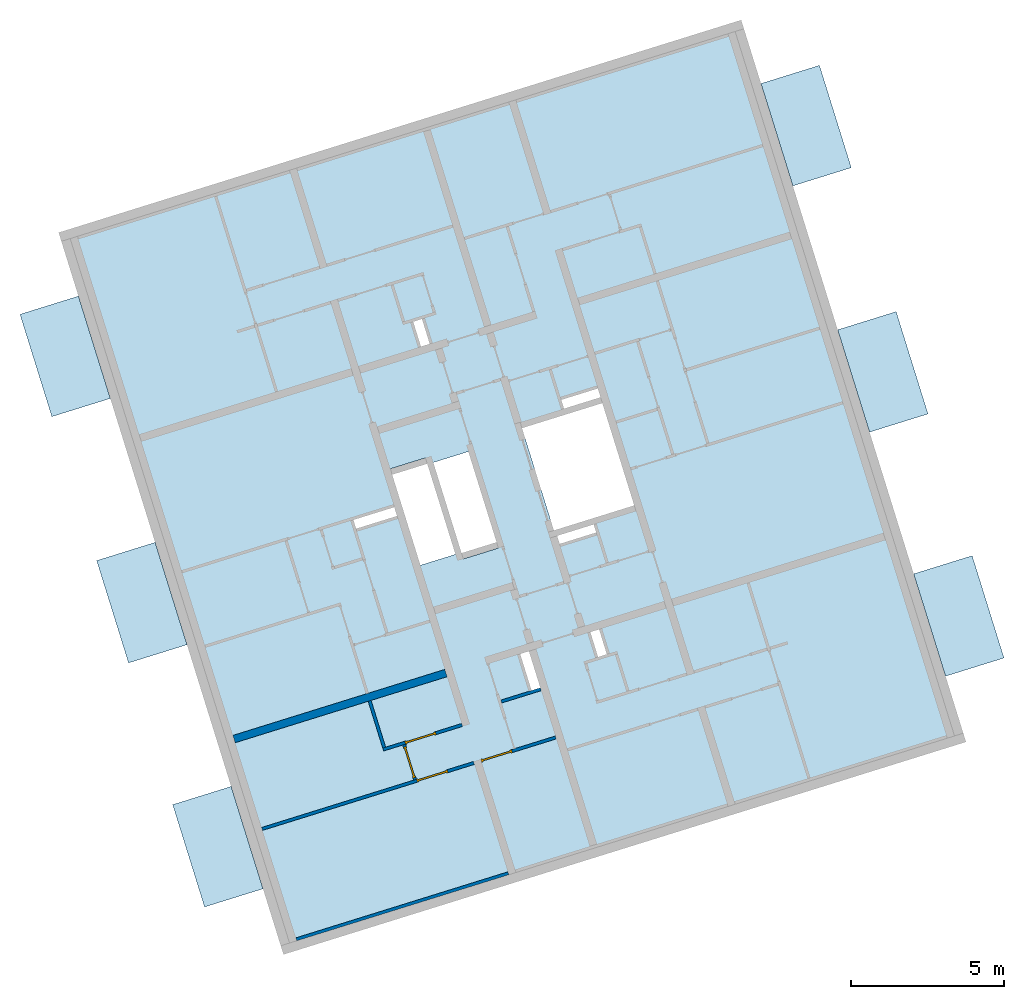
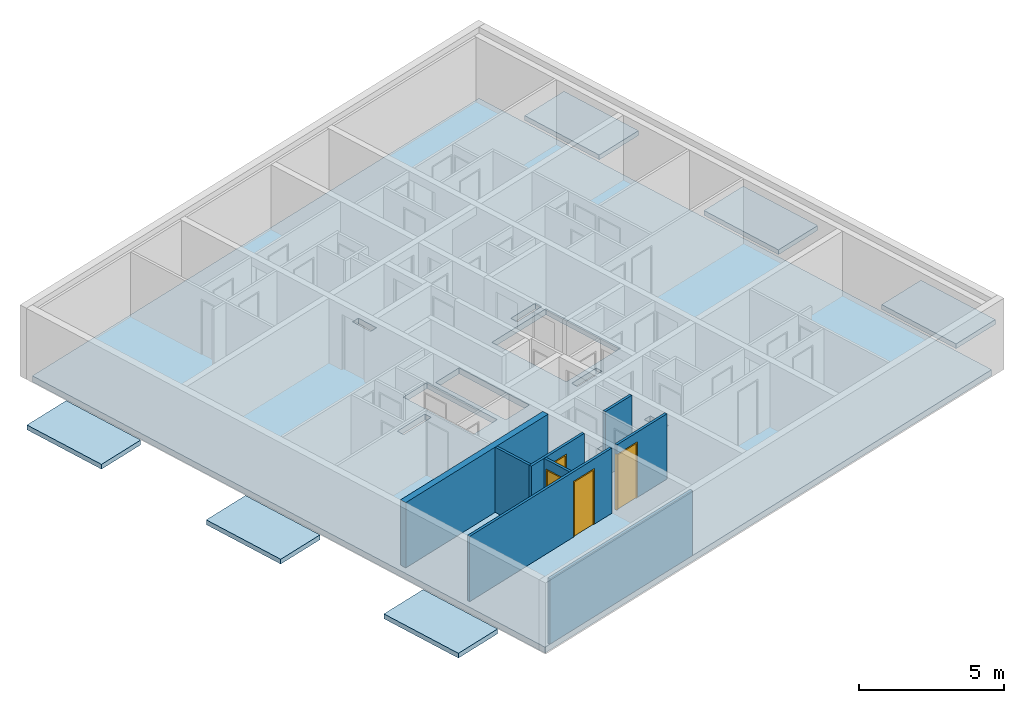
# One storey, part 1 of 9: 8 walls, 7 slabs, 4 doors, 13 openings.
"""IFC4 building model written with IfcOpenShell, lengths in metres."""

from ifc_helpers import new_model, entity, si_unit, converted_unit, direction, frame, origin, place, context, subcontext, project, spatial, indexed_curve, outline, extrude, polygons, source, transform, mapped, material, constituent, constituent_set, type_object, type_shapes, element, fill, save


model = new_model("IFC4")

# Units and contexts
model_context = context("Model", 3, precision=1e-05, world=origin(), true_north=direction((6.12323399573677e-17, 1.0)))
body_context = subcontext(model_context, "Body", "Model", "MODEL_VIEW")
ifc_project = project(units=[si_unit("LENGTHUNIT", "METRE"), si_unit("AREAUNIT", "SQUARE_METRE"), converted_unit("PLANEANGLEUNIT", "DEGREE", entity("IfcPlaneAngleMeasure", 0.0174532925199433), si_unit("PLANEANGLEUNIT", "RADIAN"), dimensions=[0, 0, 0, 0, 0, 0, 0]), si_unit("VOLUMEUNIT", "CUBIC_METRE")], contexts=[model_context])

# Site, building, storey
site_placement = place(None, frame((13.1347999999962, 11.9886000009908, 0.0), z_axis=(0.0, 0.0, 1.0), x_axis=(0.954770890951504, 0.297342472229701, 0.0)))
site = spatial("IfcSite", under=ifc_project, at=site_placement, Name="Schiehaven", CompositionType="ELEMENT")
building_placement = place(site_placement, origin())
building = spatial("IfcBuilding", under=site, at=building_placement, Name="VORM huis", CompositionType="ELEMENT")
storey_placement = place(building_placement, frame((0.0, 0.0, 24.9)))
storey = spatial("IfcBuildingStorey", under=building, at=storey_placement, Name="08 achtste verdieping", CompositionType="ELEMENT", Elevation=24.9)

# Slab, openings
ifc_material_1 = material(Name="beton_gewapend_ihw", Category="Miscellaneous")
slab_type_1 = type_object("IfcSlabType", Name="Floor:28_FL_skelet_vloer 250mm", PredefinedType="FLOOR", material=ifc_material_1)
slab_1_placement = place(storey_placement, origin())
slab_1 = element("IfcSlab", 1, at=slab_1_placement, inside=storey, type_object=slab_type_1, material=ifc_material_1, Name="Constructieve vloer", ObjectType="Vloer", PredefinedType="FLOOR", context=body_context, shape_type="SweptSolid", body=[
    extrude(outline(indexed_curve([(-12.0499999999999, -11.375), (12.05, -11.375), (12.0499999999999, 11.375), (-12.05, 11.375), (-12.0499999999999, -11.375)], self_intersect=False), holes=[indexed_curve([(1.75000000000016, 3.6250000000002), (1.75000000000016, 0.875000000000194), (-1.74999999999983, 0.875000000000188), (-1.74999999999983, 3.6250000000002), (1.75000000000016, 3.6250000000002)], self_intersect=False), indexed_curve([(-1.53999999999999, -2.22499999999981), (-1.53999999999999, -1.02499999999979), (1.76000000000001, -1.02499999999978), (1.76000000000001, -2.2249999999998), (-1.53999999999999, -2.22499999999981)], self_intersect=False), indexed_curve([(1.54000000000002, -3.62499999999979), (-1.75999999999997, -3.62499999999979), (-1.75999999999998, -2.42499999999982), (1.54000000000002, -2.42499999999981), (1.54000000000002, -3.62499999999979)], self_intersect=False), indexed_curve([(5.27499999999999, 1.02499999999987), (5.27499999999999, 1.32499999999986), (6.12499999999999, 1.32499999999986), (6.125, 1.02499999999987), (5.27499999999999, 1.02499999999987)], self_intersect=False), indexed_curve([(-6.12500000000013, -1.18400000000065), (-5.27500000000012, -1.18400000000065), (-5.27500000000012, -1.48400000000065), (-6.12500000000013, -1.48400000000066), (-6.12500000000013, -1.18400000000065)], self_intersect=False), indexed_curve([(5.27500000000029, -1.07500000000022), (6.52500000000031, -1.07500000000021), (6.52500000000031, -1.37500000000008), (5.27500000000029, -1.37500000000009), (5.27500000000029, -1.07500000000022)], self_intersect=False), indexed_curve([(-0.524999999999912, -3.87283572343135), (-0.224999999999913, -3.87283572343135), (-0.224999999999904, -5.27500000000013), (-0.524999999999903, -5.27500000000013), (-0.524999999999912, -3.87283572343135)], self_intersect=False), indexed_curve([(1.95000000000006, 2.17499999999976), (2.22500000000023, 2.17499999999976), (2.22500000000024, 0.924999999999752), (1.95000000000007, 0.92499999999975), (1.95000000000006, 2.17499999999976)], self_intersect=False), indexed_curve([(-2.25000000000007, 3.62499999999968), (-1.94999999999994, 3.62499999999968), (-1.94999999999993, 2.37499999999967), (-2.25000000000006, 2.37499999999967), (-2.25000000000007, 3.62499999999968)], self_intersect=False)]), frame((68.7500000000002, 17.0499999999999, -0.249999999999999), z_axis=(0.0, 0.0, 1.0), x_axis=(0.0, -1.0, 0.0)), (0.0, 0.0, 1.0), 0.249999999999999),
])
opening_1_placement = place(slab_1_placement, origin())
element("IfcOpeningElement", 2, at=opening_1_placement, cuts=slab_1, Name="Constructieve vloer", PredefinedType="OPENING", context=body_context, shape_type="SweptSolid", body=[
    extrude(outline(indexed_curve([(-1.75, -1.375), (1.75, -1.375), (1.75, 1.37500000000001), (-1.75, 1.37500000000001), (-1.75, -1.375)], self_intersect=False)), frame((71.0, 17.0499999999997, -0.249999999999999), z_axis=(0.0, 0.0, 1.0), x_axis=(0.0, 1.0, 0.0)), (0.0, 0.0, 1.0), 0.249999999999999),
])
opening_2_placement = place(slab_1_placement, origin())
element("IfcOpeningElement", 3, at=opening_2_placement, cuts=slab_1, Name="Constructieve vloer", PredefinedType="OPENING", context=body_context, shape_type="SweptSolid", body=[
    extrude(outline(indexed_curve([(-1.65, -0.600000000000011), (1.65000000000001, -0.600000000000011), (1.65000000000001, 0.600000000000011), (-1.65, 0.600000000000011), (-1.65, -0.600000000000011)], self_intersect=False)), frame((67.1250000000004, 16.9399999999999, -0.249999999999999), z_axis=(0.0, 0.0, 1.0), x_axis=(0.0, -1.0, 0.0)), (0.0, 0.0, 1.0), 0.249999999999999),
])
opening_3_placement = place(slab_1_placement, origin())
element("IfcOpeningElement", 4, at=opening_3_placement, cuts=slab_1, Name="Constructieve vloer", PredefinedType="OPENING", context=body_context, shape_type="SweptSolid", body=[
    extrude(outline(indexed_curve([(-0.425000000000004, -0.150000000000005), (0.425000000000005, -0.150000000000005), (0.425000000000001, 0.149999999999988), (-0.425000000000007, 0.149999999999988), (-0.425000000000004, -0.150000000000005)], self_intersect=False)), frame((69.925, 11.3499999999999, -0.249999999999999), z_axis=(0.0, 0.0, 1.0), x_axis=(0.0, -1.0, 0.0)), (0.0, 0.0, 1.0), 0.249999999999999),
])
opening_4_placement = place(slab_1_placement, origin())
element("IfcOpeningElement", 5, at=opening_4_placement, cuts=slab_1, Name="Constructieve vloer", PredefinedType="OPENING", context=body_context, shape_type="SweptSolid", body=[
    extrude(outline(indexed_curve([(-0.150000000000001, -0.425000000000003), (0.150000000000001, -0.425000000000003), (0.150000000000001, 0.425000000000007), (-0.150000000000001, 0.425000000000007), (-0.150000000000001, -0.425000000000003)], self_intersect=False)), frame((67.4159999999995, 22.7500000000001, -0.249999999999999), z_axis=(0.0, 0.0, 1.0), x_axis=(-1.0, 0.0, 0.0)), (0.0, 0.0, 1.0), 0.249999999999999),
])
opening_5_placement = place(slab_1_placement, origin())
element("IfcOpeningElement", 6, at=opening_5_placement, cuts=slab_1, Name="Constructieve vloer", PredefinedType="OPENING", context=body_context, shape_type="SweptSolid", body=[
    extrude(outline(indexed_curve([(-0.14999999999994, -0.625000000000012), (0.149999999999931, -0.625000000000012), (0.149999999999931, 0.625000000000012), (-0.14999999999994, 0.625000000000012), (-0.14999999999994, -0.625000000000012)], self_intersect=False)), frame((67.525, 11.1499999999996, -0.249999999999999), z_axis=(0.0, 0.0, 1.0), x_axis=(-1.0, 0.0, 0.0)), (0.0, 0.0, 1.0), 0.249999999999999),
])
opening_6_placement = place(slab_1_placement, origin())
element("IfcOpeningElement", 7, at=opening_6_placement, cuts=slab_1, Name="Constructieve vloer", PredefinedType="OPENING", context=body_context, shape_type="SweptSolid", body=[
    extrude(outline(indexed_curve([(-0.701082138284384, -0.150000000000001), (0.701082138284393, -0.150000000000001), (0.701082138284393, 0.149999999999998), (-0.701082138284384, 0.149999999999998), (-0.701082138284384, -0.150000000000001)], self_intersect=False)), frame((64.1760821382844, 17.4249999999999, -0.249999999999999), z_axis=(0.0, 0.0, 1.0), x_axis=(-1.0, 0.0, 0.0)), (0.0, 0.0, 1.0), 0.249999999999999),
])
opening_7_placement = place(slab_1_placement, origin())
element("IfcOpeningElement", 8, at=opening_7_placement, cuts=slab_1, Name="Constructieve vloer", PredefinedType="OPENING", context=body_context, shape_type="SweptSolid", body=[
    extrude(outline(indexed_curve([(-0.625000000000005, -0.137500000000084), (0.625000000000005, -0.137500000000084), (0.625000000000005, 0.137500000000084), (-0.625000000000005, 0.137500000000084), (-0.625000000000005, -0.137500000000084)], self_intersect=False)), frame((70.2999999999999, 14.9624999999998, -0.249999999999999), z_axis=(0.0, 0.0, 1.0), x_axis=(-1.0, 0.0, 0.0)), (0.0, 0.0, 1.0), 0.249999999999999),
])
opening_8_placement = place(slab_1_placement, origin())
element("IfcOpeningElement", 9, at=opening_8_placement, cuts=slab_1, Name="Constructieve vloer", PredefinedType="OPENING", context=body_context, shape_type="SweptSolid", body=[
    extrude(outline(indexed_curve([(-0.625000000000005, -0.150000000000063), (0.625000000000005, -0.150000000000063), (0.625000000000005, 0.150000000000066), (-0.625000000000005, 0.150000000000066), (-0.625000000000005, -0.150000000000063)], self_intersect=False)), frame((71.7499999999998, 19.1499999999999, -0.249999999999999), z_axis=(0.0, 0.0, 1.0), x_axis=(-1.0, 0.0, 0.0)), (0.0, 0.0, 1.0), 0.249999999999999),
])

# Slabs
ifc_material_2 = material(Name="beton_gewapend_prefab-element", Category="Miscellaneous")
slab_type_2 = type_object("IfcSlabType", Name="Floor:23_FL_skelet_balkon 200mm", PredefinedType="FLOOR", material=ifc_material_2)
slab_2_placement = place(storey_placement, origin())
element("IfcSlab", 10, at=slab_2_placement, inside=storey, type_object=slab_type_2, material=ifc_material_2, Name="Balkonvloer", ObjectType="Vloer", PredefinedType="FLOOR", context=body_context, shape_type="SweptSolid", body=[
    extrude(outline(indexed_curve([(-1.75000000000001, -0.999999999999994), (1.75, -0.999999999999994), (1.75000000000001, 1.0), (-1.75, 0.999999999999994), (-1.75000000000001, -0.999999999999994)], self_intersect=False)), frame((56.0750000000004, 25.4750000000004, 0.0), z_axis=(0.0, 0.0, -1.0), x_axis=(0.0, 1.0, 0.0)), (0.0, 0.0, 1.0), 0.199999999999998),
])
slab_3_placement = place(storey_placement, origin())
element("IfcSlab", 11, at=slab_3_placement, inside=storey, type_object=slab_type_2, material=ifc_material_2, Name="Balkonvloer", ObjectType="Vloer", PredefinedType="FLOOR", context=body_context, shape_type="SweptSolid", body=[
    extrude(outline(indexed_curve([(-1.75000000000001, -0.999999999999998), (1.75000000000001, -0.999999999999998), (1.75000000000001, 0.999999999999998), (-1.75000000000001, 0.999999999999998), (-1.75000000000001, -0.999999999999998)], self_intersect=False)), frame((56.0750000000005, 8.69999999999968, 0.0), z_axis=(0.0, 0.0, -1.0), x_axis=(0.0, 1.0, 0.0)), (0.0, 0.0, 1.0), 0.199999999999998),
])
slab_4_placement = place(storey_placement, origin())
element("IfcSlab", 12, at=slab_4_placement, inside=storey, type_object=slab_type_2, material=ifc_material_2, Name="Balkonvloer", ObjectType="Vloer", PredefinedType="FLOOR", context=body_context, shape_type="SweptSolid", body=[
    extrude(outline(indexed_curve([(-1.75000000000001, -1.0), (1.75000000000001, -1.0), (1.75000000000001, 0.999999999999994), (-1.75000000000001, 0.999999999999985), (-1.75000000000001, -1.0)], self_intersect=False)), frame((56.0750000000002, 17.0499999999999, 0.0), z_axis=(0.0, 0.0, -1.0), x_axis=(0.0, 1.0, 0.0)), (0.0, 0.0, 1.0), 0.199999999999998),
])
slab_5_placement = place(storey_placement, origin())
element("IfcSlab", 13, at=slab_5_placement, inside=storey, type_object=slab_type_2, material=ifc_material_2, Name="Balkonvloer", ObjectType="Vloer", PredefinedType="FLOOR", context=body_context, shape_type="SweptSolid", body=[
    extrude(outline(indexed_curve([(-1.75000000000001, -0.999999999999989), (1.75000000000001, -0.999999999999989), (1.75, 1.00000000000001), (-1.75000000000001, 0.999999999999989), (-1.75000000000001, -0.999999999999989)], self_intersect=False)), frame((81.4249999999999, 25.4750000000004, 0.0), z_axis=(0.0, 0.0, -1.0), x_axis=(0.0, 1.0, 0.0)), (0.0, 0.0, 1.0), 0.199999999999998),
])
slab_6_placement = place(storey_placement, origin())
element("IfcSlab", 14, at=slab_6_placement, inside=storey, type_object=slab_type_2, material=ifc_material_2, Name="Balkonvloer", ObjectType="Vloer", PredefinedType="FLOOR", context=body_context, shape_type="SweptSolid", body=[
    extrude(outline(indexed_curve([(-1.74999999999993, -0.999999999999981), (1.75000000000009, -0.999999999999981), (1.74999999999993, 0.999999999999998), (-1.75000000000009, 0.999999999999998), (-1.74999999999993, -0.999999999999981)], self_intersect=False)), frame((81.4250000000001, 8.69999999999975, 0.0), z_axis=(0.0, 0.0, -1.0), x_axis=(0.0, 1.0, 0.0)), (0.0, 0.0, 1.0), 0.199999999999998),
])
slab_7_placement = place(storey_placement, origin())
element("IfcSlab", 15, at=slab_7_placement, inside=storey, type_object=slab_type_2, material=ifc_material_2, Name="Balkonvloer", ObjectType="Vloer", PredefinedType="FLOOR", context=body_context, shape_type="SweptSolid", body=[
    extrude(outline(indexed_curve([(-1.74999999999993, -0.999999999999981), (1.75000000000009, -0.999999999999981), (1.74999999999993, 0.999999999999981), (-1.75000000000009, 0.999999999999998), (-1.74999999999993, -0.999999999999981)], self_intersect=False)), frame((81.4250000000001, 17.0499999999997, 0.0), z_axis=(0.0, 0.0, -1.0), x_axis=(0.0, 1.0, 0.0)), (0.0, 0.0, 1.0), 0.199999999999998),
])

# Walls
ifc_material_3 = material(Name="ntb_ntb_ntb", Category="Miscellaneous")
wall_type_1 = type_object("IfcWallType", Name="Basic Wall:21_WA_gevel_binnenspouwwand 100mm_gen", PredefinedType="STANDARD")
wall_1_placement = place(storey_placement, frame((64.8750000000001, 5.0499999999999, 0.0), z_axis=(0.0, 0.0, 1.0), x_axis=(-1.0, 0.0, 0.0)))
element("IfcWall", 16, at=wall_1_placement, inside=storey, type_object=wall_type_1, material=ifc_material_3, Name="Binnenspouwblad", ObjectType="Wand", PredefinedType="NOTDEFINED", context=body_context, shape_type="SweptSolid", body=[
    extrude(outline(indexed_curve([(7.24999999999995, 0.0500000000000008), (5.48749790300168e-18, 0.0500000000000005), (-5.48749790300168e-18, -0.0500000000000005), (7.24999999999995, -0.0500000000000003), (7.24999999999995, 0.0500000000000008)], self_intersect=False)), origin(), (0.0, 0.0, 1.0), 2.75),
])
wall_type_2 = type_object("IfcWallType", Name="Basic Wall:22_WA_afbouw_binnenwand 250mm_gen", PredefinedType="STANDARD")
wall_2_placement = place(storey_placement, frame((64.8750000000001, 11.8999999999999, 0.0), z_axis=(0.0, 0.0, 1.0), x_axis=(-1.0, 0.0, 0.0)))
element("IfcWall", 17, at=wall_2_placement, inside=storey, type_object=wall_type_2, material=ifc_material_3, Name="Binnenwand", ObjectType="Wand", PredefinedType="NOTDEFINED", context=body_context, shape_type="SweptSolid", body=[
    extrude(outline(indexed_curve([(7.24999999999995, 0.125000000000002), (-2.56336468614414e-16, 0.125), (2.56336468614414e-16, -0.125), (7.24999999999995, -0.124999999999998), (7.24999999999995, 0.125000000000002)], self_intersect=False)), origin(), (0.0, 0.0, 1.0), 2.75),
])
wall_type_3 = type_object("IfcWallType", Name="Basic Wall:22_WA_afbouw_binnenwand 100mm_gen", PredefinedType="STANDARD")
wall_3_placement = place(storey_placement, frame((67.6749999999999, 10.4749999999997, 0.0), z_axis=(0.0, 0.0, 1.0), x_axis=(-1.0, 0.0, 0.0)))
element("IfcWall", 18, at=wall_3_placement, inside=storey, type_object=wall_type_3, material=ifc_material_3, Name="Binnenwand", ObjectType="Wand", PredefinedType="NOTDEFINED", context=body_context, shape_type="SweptSolid", body=[
    extrude(outline(indexed_curve([(1.34999999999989, 0.0499999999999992), (8.93476767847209e-18, 0.0499999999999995), (-8.93476767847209e-18, -0.0499999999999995), (1.34999999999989, -0.0499999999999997), (1.34999999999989, 0.0499999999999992)], self_intersect=False)), origin(), (0.0, 0.0, 1.0), 2.75),
])

# Wall, opening, door
wall_4_placement = place(storey_placement, frame((62.175, 10.1249999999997, 0.0)))
wall_4 = element("IfcWall", 19, at=wall_4_placement, inside=storey, type_object=wall_type_3, material=ifc_material_3, Name="Binnenwand", ObjectType="Wand", PredefinedType="NOTDEFINED", context=body_context, shape_type="Tessellation", body=[
    polygons([(2.96937021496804e-15, -0.0499999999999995, 0.0), (0.650000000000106, -0.0499999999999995, 0.0), (0.750000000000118, -0.0499999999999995, 0.0), (0.750000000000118, -0.0499999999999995, 2.34999999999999), (1.80000000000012, -0.0499999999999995, 2.34999999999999), (1.80000000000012, -0.0499999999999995, 0.0), (2.69999999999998, -0.0499999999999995, 0.0), (2.69999999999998, -0.0499999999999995, 2.75), (0.75000000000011, -0.0499999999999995, 2.75), (0.650000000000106, -0.0499999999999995, 2.75), (2.96937021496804e-15, -0.0499999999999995, 2.75), (0.750000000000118, 0.0499999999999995, 2.34999999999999), (0.750000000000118, 0.0499999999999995, 0.0), (0.100000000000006, 0.0499999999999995, 0.0), (2.9128583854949e-15, 0.0499999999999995, 0.0), (2.9128583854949e-15, 0.0499999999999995, 2.75), (0.100000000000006, 0.0499999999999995, 2.75), (2.69999999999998, 0.0499999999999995, 2.75), (2.69999999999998, 0.0499999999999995, 0.0), (1.80000000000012, 0.0499999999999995, 0.0), (1.80000000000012, 0.0499999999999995, 2.34999999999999)], [[[1, 2, 3, 4, 5, 6, 7, 8, 9, 10, 11]], [[12, 13, 14, 15, 16, 17, 18, 19, 20, 21]], [[15, 14, 13, 3, 2, 1]], [[8, 7, 19, 18]], [[11, 10, 9, 8, 18, 17, 16]], [[6, 5, 21, 20]], [[4, 3, 13, 12]], [[5, 4, 12, 21]], [[1, 11, 16, 15]], [[20, 19, 7, 6]]], closed=True),
])
opening_9_placement = place(wall_4_placement, frame((1.80000000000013, 0.0499999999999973, 0.0)))
opening_9 = element("IfcOpeningElement", 20, at=opening_9_placement, cuts=wall_4, Name="Binnendeur", PredefinedType="OPENING", context=body_context, shape_type="SweptSolid", body=[
    extrude(outline(indexed_curve([(2.34999999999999, 0.0), (2.34999999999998, 1.05), (0.0, 1.05), (2.16573425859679e-15, 0.0), (2.34999999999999, 0.0)], self_intersect=False)), frame((0.0, 0.0, 0.0), z_axis=(0.0, -1.0, 0.0), x_axis=(0.0, 0.0, 1.0)), (0.0, 0.0, 1.0), 0.1),
])
ifc_material_4 = material(Name="PD_a_binnenwandopeningen", Category="Miscellaneous")
ifc_constituent_1 = constituent(ifc_material_4, Name="PD_a_binnenwandopeningen", Category="Miscellaneous")
ifc_material_5 = material(Name="metaal_aluminium_ntb", Category="Miscellaneous")
ifc_constituent_2 = constituent(ifc_material_5, Name="metaal_aluminium_ntb", Category="Miscellaneous")
ifc_constituent_set_1 = constituent_set(constituents=[ifc_constituent_1, ifc_constituent_2])
ifc_constituent_3 = constituent(ifc_material_4, Name="PD_a_binnenwandopeningen", Category="Miscellaneous")
ifc_constituent_4 = constituent(ifc_material_5, Name="Panel", Category="Miscellaneous")
ifc_constituent_set_2 = constituent_set(constituents=[ifc_constituent_3, ifc_constituent_4])
door_type_1 = type_object("IfcDoorType", Name="32_DO_binnendeur enkel:binnendeur", OperationType="REVOLVING", PredefinedType="DOOR", material=ifc_constituent_set_2)
shared_shape_1 = source(origin(), body_context, "Body", "SweptSolid", [
    extrude(outline(indexed_curve([(0.475, -1.16249999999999), (0.525, -1.16249999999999), (0.525, 1.18749999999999), (-0.525, 1.18749999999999), (-0.525, -1.16249999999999), (-0.475, -1.16249999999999), (-0.475, 1.13749999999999), (0.475, 1.13749999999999), (0.475, -1.16249999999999)], self_intersect=False)), frame((0.525000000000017, 0.100000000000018, 1.16249999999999), z_axis=(0.0, -1.0, 0.0), x_axis=(1.0, 0.0, 0.0)), (0.0, 0.0, 1.0), 0.1),
    extrude(outline(indexed_curve([(-0.475, -0.025), (0.475, -0.025), (0.475, 0.025), (-0.475, 0.025), (-0.475, -0.025)], self_intersect=False)), frame((0.525000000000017, 0.0499999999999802, 0.0)), (0.0, 0.0, 1.0), 2.29999999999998),
])
type_shapes(door_type_1, [shared_shape_1])
door_1_placement = place(opening_9_placement, frame((0.0, 0.0, 0.0), z_axis=(0.0, 0.0, 1.0), x_axis=(-1.0, 0.0, 0.0)))
door_1 = element("IfcDoor", 21, at=door_1_placement, inside=storey, type_object=door_type_1, material=ifc_constituent_set_1, Name="Binnendeur", ObjectType="Deur", OperationType="REVOLVING", OverallHeight=2.34999999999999, OverallWidth=1.05, PredefinedType="DOOR", context=body_context, shape_type="MappedRepresentation", body=[
    mapped(shared_shape_1, transform((0.0, 0.0, 0.0), scale=1.0)),
])
fill(opening_9, door_1)

wall_5_placement = place(storey_placement, frame((57.625, 8.82499999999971, 0.0)))
wall_5 = element("IfcWall", 22, at=wall_5_placement, inside=storey, type_object=wall_type_3, material=ifc_material_3, Name="Binnenwand", ObjectType="Wand", PredefinedType="NOTDEFINED", context=body_context, shape_type="Tessellation", body=[
    polygons([(6.35000000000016, -0.0500000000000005, 2.34999999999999), (6.35000000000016, -0.0500000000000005, 0.0), (7.25000000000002, -0.0500000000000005, 0.0), (7.25000000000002, -0.0500000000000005, 2.75), (3.70402399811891e-15, -0.0500000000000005, 2.75), (3.70402399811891e-15, -0.0500000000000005, 0.0), (5.30000000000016, -0.0500000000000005, 0.0), (5.30000000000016, -0.0500000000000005, 2.34999999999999), (7.25000000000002, 0.0499999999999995, 0.0), (6.35000000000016, 0.0499999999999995, 0.0), (6.35000000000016, 0.0499999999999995, 2.34999999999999), (5.30000000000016, 0.0499999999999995, 2.34999999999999), (5.30000000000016, 0.0499999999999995, 0.0), (5.20000000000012, 0.0499999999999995, 0.0), (3.64751216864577e-15, 0.0499999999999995, 0.0), (3.64751216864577e-15, 0.0499999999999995, 2.75), (5.20000000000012, 0.0499999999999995, 2.75), (5.30000000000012, 0.0499999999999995, 2.75), (7.25000000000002, 0.0499999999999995, 2.75)], [[[1, 2, 3, 4, 5, 6, 7, 8]], [[9, 10, 11, 12, 13, 14, 15, 16, 17, 18, 19]], [[7, 6, 15, 14, 13]], [[4, 3, 9, 19]], [[5, 4, 19, 18, 17, 16]], [[6, 5, 16, 15]], [[13, 12, 8, 7]], [[11, 10, 2, 1]], [[12, 11, 1, 8]], [[3, 2, 10, 9]]], closed=True),
])
opening_10_placement = place(wall_5_placement, frame((5.30000000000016, -0.0500000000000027, 0.0)))
opening_10 = element("IfcOpeningElement", 23, at=opening_10_placement, cuts=wall_5, Name="Binnendeur", PredefinedType="OPENING", context=body_context, shape_type="SweptSolid", body=[
    extrude(outline(indexed_curve([(2.34999999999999, 0.0), (2.34999999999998, 1.05), (0.0, 1.05), (2.16573425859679e-15, 0.0), (2.34999999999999, 0.0)], self_intersect=False)), frame((0.0, 0.0, 0.0), z_axis=(0.0, 1.0, 0.0), x_axis=(0.0, 0.0, 1.0)), (0.0, 0.0, 1.0), 0.1),
])
ifc_constituent_5 = constituent(ifc_material_4, Name="PD_a_binnenwandopeningen", Category="Miscellaneous")
ifc_constituent_6 = constituent(ifc_material_5, Name="metaal_aluminium_ntb", Category="Miscellaneous")
ifc_constituent_set_3 = constituent_set(constituents=[ifc_constituent_5, ifc_constituent_6])
door_2_placement = place(opening_10_placement, origin())
door_2 = element("IfcDoor", 24, at=door_2_placement, inside=storey, type_object=door_type_1, material=ifc_constituent_set_3, Name="Binnendeur", ObjectType="Deur", OperationType="REVOLVING", OverallHeight=2.34999999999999, OverallWidth=1.05, PredefinedType="DOOR", context=body_context, shape_type="MappedRepresentation", body=[
    mapped(shared_shape_1, transform((0.0, 0.0, 0.0), scale=1.0)),
])
fill(opening_10, door_2)

# Wall
wall_6_placement = place(storey_placement, frame((62.225, 10.1749999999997, 0.0), z_axis=(0.0, 0.0, 1.0), x_axis=(0.0, 1.0, 0.0)))
element("IfcWall", 25, at=wall_6_placement, inside=storey, type_object=wall_type_3, material=ifc_material_3, Name="Binnenwand", ObjectType="Wand", PredefinedType="NOTDEFINED", context=body_context, shape_type="SweptSolid", body=[
    extrude(outline(indexed_curve([(1.6000000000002, 0.0499999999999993), (-6.12369559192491e-17, 0.0499999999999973), (6.12369559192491e-17, -0.0499999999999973), (1.6000000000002, -0.0499999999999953), (1.6000000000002, 0.0499999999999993)], self_intersect=False)), origin(), (0.0, 0.0, 1.0), 2.75),
])

# Wall, opening, door
wall_7_placement = place(storey_placement, frame((62.8750000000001, 10.0749999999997, 0.0), z_axis=(0.0, 0.0, 1.0), x_axis=(0.0, -1.0, 0.0)))
wall_7 = element("IfcWall", 26, at=wall_7_placement, inside=storey, type_object=wall_type_3, material=ifc_material_3, Name="Binnenwand", ObjectType="Wand", PredefinedType="NOTDEFINED", context=body_context, shape_type="Tessellation", body=[
    polygons([(1.2, -0.0499999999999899, 2.75), (2.16573425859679e-15, -0.0500000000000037, 2.75), (2.16573425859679e-15, -0.0500000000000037, 0.0), (0.0799999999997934, -0.0500000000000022, 0.0), (0.0799999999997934, -0.0500000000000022, 2.34999999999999), (1.12999999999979, -0.0499999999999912, 2.34999999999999), (1.12999999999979, -0.0499999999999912, 0.0), (1.2, -0.0499999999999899, 0.0), (0.0, 0.0499999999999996, 2.75), (1.19999999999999, 0.0500000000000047, 2.75), (1.19999999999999, 0.0500000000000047, 2.34999999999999), (1.19999999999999, 0.0500000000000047, 0.0), (1.12999999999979, 0.0500000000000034, 0.0), (1.12999999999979, 0.0500000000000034, 2.34999999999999), (0.0799999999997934, 0.0500000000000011, 2.34999999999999), (0.0799999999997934, 0.0500000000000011, 0.0), (0.0, 0.0499999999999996, 0.0), (0.0, 0.0499999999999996, 2.34999999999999)], [[[1, 2, 3, 4, 5, 6, 7, 8]], [[9, 10, 11, 12, 13, 14, 15, 16, 17, 18]], [[3, 17, 16, 4]], [[2, 1, 10, 9]], [[6, 14, 13, 7]], [[14, 6, 5, 15]], [[15, 5, 4, 16]], [[1, 8, 12, 11, 10]], [[3, 2, 9, 18, 17]], [[12, 8, 7, 13]]], closed=True),
])
opening_11_placement = place(wall_7_placement, frame((0.0799999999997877, -0.0499999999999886, 0.0)))
opening_11 = element("IfcOpeningElement", 27, at=opening_11_placement, cuts=wall_7, Name="Binnendeur", PredefinedType="OPENING", context=body_context, shape_type="SweptSolid", body=[
    extrude(outline(indexed_curve([(2.34999999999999, 1.05), (0.0, 1.05), (0.0, 1.35358391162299e-15), (2.34999999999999, 1.35358391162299e-15), (2.34999999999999, 1.05)], self_intersect=False)), frame((0.0, 0.0, 0.0), z_axis=(0.0, 1.0, 0.0), x_axis=(0.0, 0.0, 1.0)), (0.0, 0.0, 1.0), 0.1),
])
ifc_constituent_7 = constituent(ifc_material_4, Name="PD_a_binnenwandopeningen", Category="Miscellaneous")
ifc_constituent_8 = constituent(ifc_material_5, Name="metaal_aluminium_ntb", Category="Miscellaneous")
ifc_constituent_set_4 = constituent_set(constituents=[ifc_constituent_7, ifc_constituent_8])
ifc_constituent_9 = constituent(ifc_material_4, Name="PD_a_binnenwandopeningen", Category="Miscellaneous")
ifc_constituent_10 = constituent(ifc_material_5, Name="Panel", Category="Miscellaneous")
ifc_constituent_set_5 = constituent_set(constituents=[ifc_constituent_9, ifc_constituent_10])
door_type_2 = type_object("IfcDoorType", Name="32_DO_binnendeur enkel:binnendeur", OperationType="REVOLVING", PredefinedType="DOOR", material=ifc_constituent_set_5)
shared_shape_2 = source(origin(), body_context, "Body", "SweptSolid", [
    extrude(outline(indexed_curve([(-1.16249999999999, -0.525000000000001), (1.18749999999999, -0.525), (1.18749999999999, 0.525), (-1.16249999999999, 0.525), (-1.16249999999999, 0.475), (1.13749999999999, 0.475), (1.13749999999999, -0.475), (-1.16249999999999, -0.475), (-1.16249999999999, -0.525000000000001)], self_intersect=False)), frame((0.525000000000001, 0.0, 1.16249999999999), z_axis=(0.0, 1.0, 0.0), x_axis=(0.0, 0.0, 1.0)), (0.0, 0.0, 1.0), 0.1),
    extrude(outline(indexed_curve([(-0.025, -0.475), (0.025, -0.475), (0.025, 0.475), (-0.025, 0.475), (-0.025, -0.475)], self_intersect=False)), frame((0.525000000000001, 0.0499999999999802, 0.0), z_axis=(0.0, 0.0, 1.0), x_axis=(0.0, 1.0, 0.0)), (0.0, 0.0, 1.0), 2.29999999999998),
])
type_shapes(door_type_2, [shared_shape_2])
door_3_placement = place(opening_11_placement, origin())
door_3 = element("IfcDoor", 28, at=door_3_placement, inside=storey, type_object=door_type_2, material=ifc_constituent_set_4, Name="Binnendeur", ObjectType="Deur", OperationType="REVOLVING", OverallHeight=2.34999999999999, OverallWidth=1.05, PredefinedType="DOOR", context=body_context, shape_type="MappedRepresentation", body=[
    mapped(shared_shape_2, transform((0.0, 0.0, 0.0), scale=1.0)),
])
fill(opening_11, door_3)

# Wall, openings, door
wall_8_placement = place(storey_placement, frame((67.6749999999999, 8.82499999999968, 0.0), z_axis=(0.0, 0.0, 1.0), x_axis=(-1.0, 0.0, 0.0)))
wall_8 = element("IfcWall", 29, at=wall_8_placement, inside=storey, type_object=wall_type_3, material=ifc_material_3, Name="Binnenwand", ObjectType="Wand", PredefinedType="NOTDEFINED", context=body_context, shape_type="Tessellation", body=[
    polygons([(2.5499999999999, -0.0500000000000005, 2.75), (1.44999999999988, -0.0500000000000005, 2.75), (1.34999999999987, -0.0500000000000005, 2.75), (-1.58592126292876e-15, -0.0500000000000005, 2.75), (-1.58592126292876e-15, -0.0500000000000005, 0.0), (1.49999999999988, -0.0500000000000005, 0.0), (1.49999999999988, -0.0500000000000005, 2.34999999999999), (2.5499999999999, -0.0500000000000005, 2.34999999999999), (-1.56805172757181e-15, 0.0499999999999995, 2.75), (2.5499999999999, 0.0499999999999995, 2.75), (2.5499999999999, 0.0499999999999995, 2.34999999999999), (1.49999999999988, 0.0499999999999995, 2.34999999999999), (1.49999999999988, 0.0499999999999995, 0.0), (-1.56805172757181e-15, 0.0499999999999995, 0.0)], [[[1, 2, 3, 4, 5, 6, 7, 8]], [[9, 10, 11, 12, 13, 14]], [[5, 14, 13, 6]], [[10, 1, 8, 11]], [[4, 3, 2, 1, 10, 9]], [[5, 4, 9, 14]], [[12, 7, 6, 13]], [[7, 12, 11, 8]]], closed=True),
])
opening_12_placement = place(wall_8_placement, origin())
element("IfcOpeningElement", 30, at=opening_12_placement, cuts=wall_8, Name="Binnendeur", PredefinedType="OPENING", context=body_context, shape_type="SweptSolid", body=[
    extrude(outline(indexed_curve([(-0.0499999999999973, -1.17499999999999), (0.050000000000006, -1.17499999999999), (0.050000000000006, 1.17499999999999), (-0.0499999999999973, 1.17499999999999), (-0.0499999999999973, -1.17499999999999)], self_intersect=False)), frame((1.39999999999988, -1.10000000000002, 1.17499999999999), z_axis=(0.0, 1.0, 0.0), x_axis=(1.0, 0.0, 0.0)), (0.0, 0.0, 1.0), 1.05),
])
opening_13_placement = place(wall_8_placement, frame((2.54999999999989, 0.0499999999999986, 0.0)))
opening_13 = element("IfcOpeningElement", 31, at=opening_13_placement, cuts=wall_8, Name="Binnendeur", PredefinedType="OPENING", context=body_context, shape_type="SweptSolid", body=[
    extrude(outline(indexed_curve([(2.34999999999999, 3.32583839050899e-32), (2.34999999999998, 1.05), (0.0, 1.05), (2.16573425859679e-15, 3.32583839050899e-32), (2.34999999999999, 3.32583839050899e-32)], self_intersect=False)), frame((0.0, 0.0, 0.0), z_axis=(0.0, -1.0, 0.0), x_axis=(0.0, 0.0, 1.0)), (0.0, 0.0, 1.0), 0.1),
])
ifc_constituent_11 = constituent(ifc_material_4, Name="PD_a_binnenwandopeningen", Category="Miscellaneous")
ifc_constituent_12 = constituent(ifc_material_5, Name="metaal_aluminium_ntb", Category="Miscellaneous")
ifc_constituent_set_6 = constituent_set(constituents=[ifc_constituent_11, ifc_constituent_12])
door_4_placement = place(opening_13_placement, frame((0.0, 0.0, 0.0), z_axis=(0.0, 0.0, 1.0), x_axis=(-1.0, 0.0, 0.0)))
door_4 = element("IfcDoor", 32, at=door_4_placement, inside=storey, type_object=door_type_1, material=ifc_constituent_set_6, Name="Binnendeur", ObjectType="Deur", OperationType="REVOLVING", OverallHeight=2.34999999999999, OverallWidth=1.05, PredefinedType="DOOR", context=body_context, shape_type="MappedRepresentation", body=[
    mapped(shared_shape_1, transform((0.0, 0.0, 0.0), scale=1.0)),
])
fill(opening_13, door_4)

save(model, "model.ifc")
